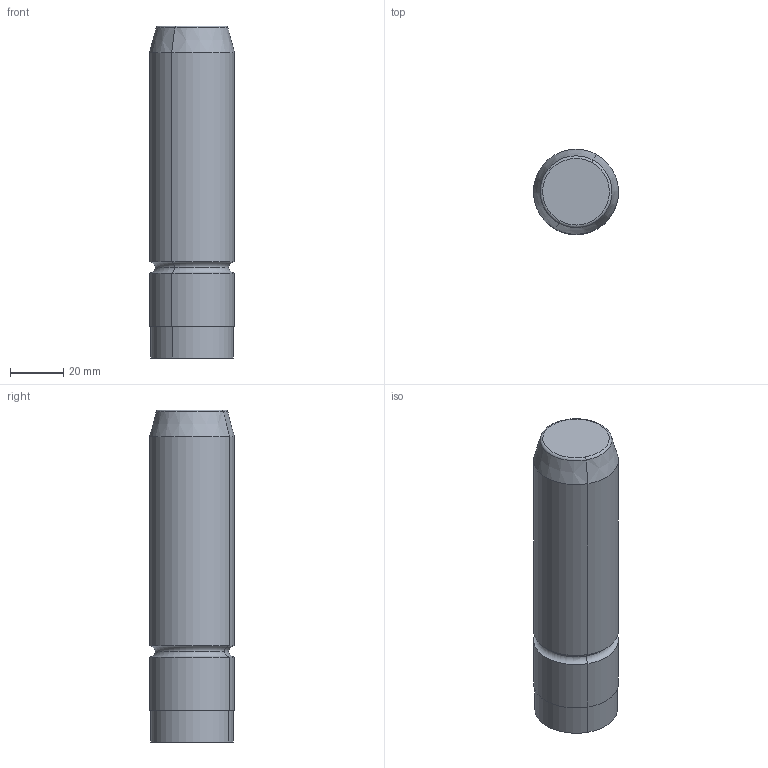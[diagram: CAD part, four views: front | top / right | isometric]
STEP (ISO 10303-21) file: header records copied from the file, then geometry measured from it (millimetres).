
FILE_DESCRIPTION(('CATIA V5 STEP Exchange'),'2;1');
FILE_NAME('C:\Users\Utente\Desktop\IO LAVORO\3D X SITO CF\X SITO\M104\M104-32x125.stp','2020-12-26T21:35:14+00:00',('none'),('none'),'CATIA Version 5 Release 20 GA (IN-10)','CATIA V5 STEP AP203','none');
FILE_SCHEMA(('CONFIG_CONTROL_DESIGN'));
Length unit declared in the file: millimetre
Products named in the file (1): M104-32x125
Bounding box: 31.99 x 31.99 x 125 mm (x, y, z)
Volume: 97998.6 mm3; surface area: 14005.1 mm2
Topology: 1 solids, 1 shells, 17 faces, 32 edges, 18 vertices
Faces by surface type: cylinder 6, torus 6, plane 3, cone 2
Entity records: 438 total; most frequent: CARTESIAN_POINT 66, ORIENTED_EDGE 64, DIRECTION 62, AXIS2_PLACEMENT_3D 40, EDGE_CURVE 32, CIRCLE 24, EDGE_LOOP 18, VERTEX_POINT 18
